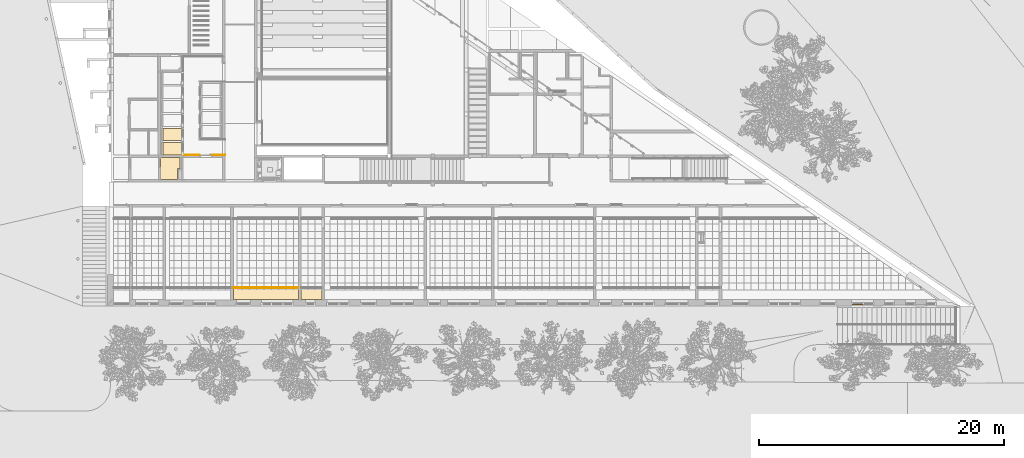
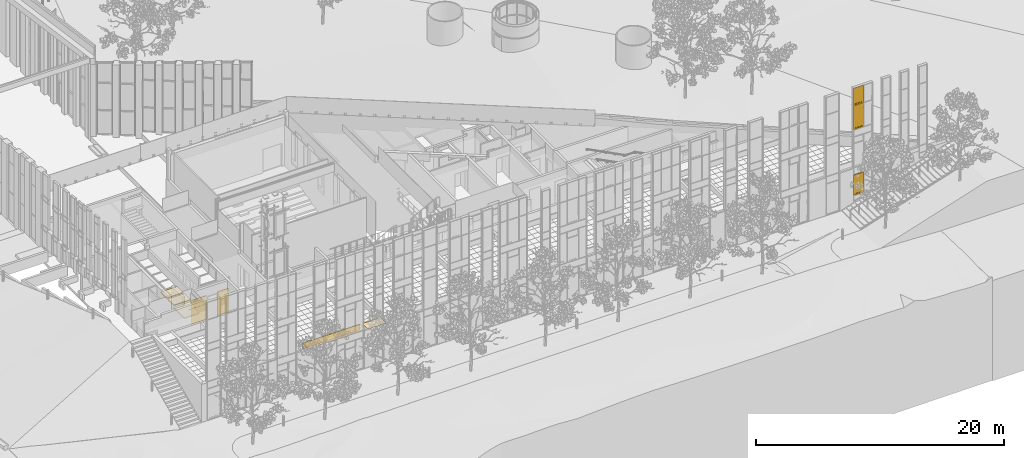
# One storey, part 167 of 246: 7 coverings, 3 windows, 1 opening, 1 element without a shape of its own.
"""IFC2X3 building model written with IfcOpenShell, lengths in millimetres."""

from ifc_helpers import new_model, entity, si_unit, converted_unit, derived_unit, money_unit, direction, frame, origin_with_axes, place, context, subcontext, project, spatial, open_shell, faceted_brep, surface_model, material, material_list, type_object, element, aggregate, save


model = new_model("IFC2X3")

# Units and contexts
model_context = context("Model", 3, precision=0.01, world=origin_with_axes(), true_north=direction((0.0, 1.0)))
body_context = subcontext(model_context, "Body", "Model", "MODEL_VIEW")
ifc_project = project(units=[si_unit("LENGTHUNIT", "METRE", prefix="MILLI"), si_unit("AREAUNIT", "SQUARE_METRE"), si_unit("VOLUMEUNIT", "CUBIC_METRE"), converted_unit("PLANEANGLEUNIT", "DEGREE", entity("IfcPlaneAngleMeasure", 0.0174532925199), si_unit("PLANEANGLEUNIT", "RADIAN"), dimensions=[0, 0, 0, 0, 0, 0, 0]), si_unit("SOLIDANGLEUNIT", "STERADIAN"), money_unit("EUR"), converted_unit("TIMEUNIT", "Year", entity("IfcTimeMeasure", 31556926.0), si_unit("TIMEUNIT", "SECOND"), dimensions=[0, 0, 1, 0, 0, 0, 0]), si_unit("MASSUNIT", "GRAM", prefix="KILO"), si_unit("THERMODYNAMICTEMPERATUREUNIT", "DEGREE_CELSIUS"), si_unit("LUMINOUSINTENSITYUNIT", "LUMEN"), si_unit("ENERGYUNIT", "JOULE", prefix="MEGA"), derived_unit("THERMALCONDUCTANCEUNIT", [(si_unit("POWERUNIT", "WATT"), 1), (si_unit("LENGTHUNIT", "METRE"), -1), (si_unit("THERMODYNAMICTEMPERATUREUNIT", "KELVIN"), -1)]), derived_unit("SPECIFICHEATCAPACITYUNIT", [(si_unit("ENERGYUNIT", "JOULE"), 1), (si_unit("MASSUNIT", "GRAM", prefix="KILO"), -1), (si_unit("THERMODYNAMICTEMPERATUREUNIT", "KELVIN"), -1)]), derived_unit("MASSDENSITYUNIT", [(si_unit("MASSUNIT", "GRAM", prefix="KILO"), 1), (si_unit("VOLUMEUNIT", "CUBIC_METRE"), -1)])], contexts=[model_context])

# Site, building, storey
site_placement = place(None, origin_with_axes())
site = spatial("IfcSite", under=ifc_project, at=site_placement, Name="L.Koidula tn 11b", CompositionType="ELEMENT")
building_placement = place(site_placement, origin_with_axes())
building = spatial("IfcBuilding", under=site, at=building_placement, Name="Rakvere Riigigümnaasium", CompositionType="ELEMENT")
storey_placement = place(building_placement, origin_with_axes())
storey = spatial("IfcBuildingStorey", under=building, at=storey_placement, Name="1.korrus 0,00", CompositionType="ELEMENT", Elevation=0.0)

# Curtain wall, windows
curtain_wall_type = type_object("IfcCurtainWallType", Name="Curtain Wall Type", PredefinedType="NOTDEFINED")
curtain_wall_placement = place(storey_placement, frame((96030.936158, 5111.45334637, 394.620798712), z_axis=(0.0, 0.0, 1.0), x_axis=(1.0, 0.0, 0.0)))
curtain_wall = element("IfcCurtainWall", 1, at=curtain_wall_placement, inside=storey, type_object=curtain_wall_type, Name="KLF-05-2C")
ifc_material_1 = material(Name="Alumiiniumprofiil (RAL 7021)")
ifc_material_2 = material(Name="Klaaspakett 3x ribikardinatega")
ifc_material_list_1 = material_list([ifc_material_1, ifc_material_2])
window_style_1 = type_object("IfcWindowStyle", Name="926 x 2351 x 54", ConstructionType="NOTDEFINED", OperationType="NOTDEFINED", ParameterTakesPrecedence=False, Sizeable=False)
window_1_placement = place(curtain_wall_placement, frame((159.531980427, 0.0, 8117.87919319), z_axis=(0.0, 0.0, 1.0), x_axis=(-1.0, 0.0, 0.0)))
window_1 = element("IfcWindow", 2, at=window_1_placement, type_object=window_style_1, material=ifc_material_list_1, Name="KLF-05-A-2", ObjectType="WINDOW", context=body_context, shape_type="SurfaceModel", body=[
    surface_model("IfcShellBasedSurfaceModel", [(440.468013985, 38.0, -1022.5000149), (381.468013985, 38.0, -963.500014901), (-400.531980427, 38.0, -963.500014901), (-459.531980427, 38.0, -1022.5000149)], [open_shell([[[0, 1, 2, 3]]])]),
    surface_model("IfcShellBasedSurfaceModel", [(-459.531980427, 38.0, -1022.5000149), (-400.531980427, 38.0, -963.500014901), (-400.531980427, 38.0, 1243.5000149), (-459.531980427, 38.0, 1302.5000149)], [open_shell([[[0, 1, 2, 3]]])]),
    surface_model("IfcShellBasedSurfaceModel", [(440.468013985, 38.0, 1302.5000149), (-459.531980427, 38.0, 1302.5000149), (-400.531980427, 38.0, 1243.5000149), (381.468013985, 38.0, 1243.5000149)], [open_shell([[[0, 1, 2, 3]]])]),
    surface_model("IfcShellBasedSurfaceModel", [(440.468013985, 38.0, -1022.5000149), (440.468013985, 38.0, 1302.5000149), (381.468013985, 38.0, 1243.5000149), (381.468013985, 38.0, -963.500014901)], [open_shell([[[0, 1, 2, 3]]])]),
    faceted_brep([(440.468013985, -51.0, -1022.5000149), (-459.531980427, -51.0, -1022.5000149), (-459.531980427, 38.0, -1022.5000149), (440.468013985, 38.0, -1022.5000149), (381.468013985, -51.0, -963.500014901), (-400.531980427, -51.0, -963.500014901), (-400.531980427, 38.0, -963.500014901), (381.468013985, 38.0, -963.500014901)], [[[0, 1, 2, 3]], [[0, 4, 5, 1]], [[1, 5, 6, 2]], [[3, 2, 6, 7]], [[4, 0, 3, 7]], [[5, 4, 7, 6]]]),
    faceted_brep([(-459.531980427, -51.0, -1022.5000149), (-459.531980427, -51.0, 1302.5000149), (-459.531980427, 38.0, 1302.5000149), (-459.531980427, 38.0, -1022.5000149), (-400.531980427, -51.0, -963.500014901), (-400.531980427, -51.0, 1243.5000149), (-400.531980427, 38.0, 1243.5000149), (-400.531980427, 38.0, -963.500014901)], [[[0, 1, 2, 3]], [[0, 4, 5, 1]], [[1, 5, 6, 2]], [[3, 2, 6, 7]], [[4, 0, 3, 7]], [[5, 4, 7, 6]]]),
    faceted_brep([(440.468013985, -51.0, 1302.5000149), (381.468013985, -51.0, 1243.5000149), (381.468013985, 38.0, 1243.5000149), (440.468013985, 38.0, 1302.5000149), (-459.531980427, -51.0, 1302.5000149), (-400.531980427, -51.0, 1243.5000149), (-400.531980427, 38.0, 1243.5000149), (-459.531980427, 38.0, 1302.5000149)], [[[0, 1, 2, 3]], [[0, 4, 5, 1]], [[1, 5, 6, 2]], [[3, 2, 6, 7]], [[4, 0, 3, 7]], [[5, 4, 7, 6]]]),
    faceted_brep([(440.468013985, -51.0, -1022.5000149), (381.468013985, -51.0, -963.500014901), (381.468013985, 38.0, -963.500014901), (440.468013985, 38.0, -1022.5000149), (440.468013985, -51.0, 1302.5000149), (381.468013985, -51.0, 1243.5000149), (381.468013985, 38.0, 1243.5000149), (440.468013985, 38.0, 1302.5000149)], [[[0, 1, 2, 3]], [[0, 4, 5, 1]], [[1, 5, 6, 2]], [[3, 2, 6, 7]], [[4, 0, 3, 7]], [[5, 4, 7, 6]]]),
    faceted_brep([(453.468035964, -27.0, -1035.50000149), (-472.531967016, -27.0, -1035.50000149), (-472.531967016, 27.0, -1035.50000149), (453.468035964, 27.0, -1035.50000149), (440.468013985, -27.0, -1022.5000149), (-459.531980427, -27.0, -1022.5000149), (-459.531980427, 27.0, -1022.5000149), (440.468013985, 27.0, -1022.5000149)], [[[0, 1, 2, 3]], [[0, 4, 5, 1]], [[1, 5, 6, 2]], [[3, 2, 6, 7]], [[4, 0, 3, 7]], [[5, 4, 7, 6]]]),
    faceted_brep([(-472.531967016, -27.0, -1035.50000149), (-472.531967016, -27.0, 1315.50000149), (-472.531967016, 27.0, 1315.50000149), (-472.531967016, 27.0, -1035.50000149), (-459.531980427, -27.0, -1022.5000149), (-459.531980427, -27.0, 1302.5000149), (-459.531980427, 27.0, 1302.5000149), (-459.531980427, 27.0, -1022.5000149)], [[[0, 1, 2, 3]], [[0, 4, 5, 1]], [[1, 5, 6, 2]], [[3, 2, 6, 7]], [[4, 0, 3, 7]], [[5, 4, 7, 6]]]),
    faceted_brep([(-472.531967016, -27.0, 1315.50000149), (453.468035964, -27.0, 1315.50000149), (453.468035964, 27.0, 1315.50000149), (-472.531967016, 27.0, 1315.50000149), (-459.531980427, -27.0, 1302.5000149), (440.468013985, -27.0, 1302.5000149), (440.468013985, 27.0, 1302.5000149), (-459.531980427, 27.0, 1302.5000149)], [[[0, 1, 2, 3]], [[0, 4, 5, 1]], [[1, 5, 6, 2]], [[3, 2, 6, 7]], [[4, 0, 3, 7]], [[5, 4, 7, 6]]]),
    faceted_brep([(453.468035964, -27.0, 1315.50000149), (453.468035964, -27.0, -1035.50000149), (453.468035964, 27.0, -1035.50000149), (453.468035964, 27.0, 1315.50000149), (440.468013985, -27.0, 1302.5000149), (440.468013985, -27.0, -1022.5000149), (440.468013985, 27.0, -1022.5000149), (440.468013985, 27.0, 1302.5000149)], [[[0, 1, 2, 3]], [[0, 4, 5, 1]], [[1, 5, 6, 2]], [[3, 2, 6, 7]], [[4, 0, 3, 7]], [[5, 4, 7, 6]]]),
    faceted_brep([(318.468013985, 38.0, -900.500014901), (318.468013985, -62.0, -900.500014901), (318.468013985, -62.0, 1180.5000149), (318.468013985, 38.0, 1180.5000149), (381.468013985, 38.0, -963.500014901), (381.468013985, -62.0, -963.500014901), (381.468013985, -62.0, 1243.5000149), (381.468013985, 38.0, 1243.5000149)], [[[0, 1, 2, 3]], [[4, 5, 1, 0]], [[1, 5, 6, 2]], [[3, 2, 6, 7]], [[0, 3, 7, 4]], [[7, 6, 5, 4]]]),
    faceted_brep([(-400.531980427, 38.0, -963.500014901), (-400.531980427, -62.0, -963.500014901), (-400.531980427, -62.0, 1243.5000149), (-400.531980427, 38.0, 1243.5000149), (-337.531980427, 38.0, -900.500014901), (-337.531980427, -62.0, -900.500014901), (-337.531980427, -62.0, 1180.5000149), (-337.531980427, 38.0, 1180.5000149)], [[[0, 1, 2, 3]], [[4, 5, 1, 0]], [[1, 5, 6, 2]], [[3, 2, 6, 7]], [[0, 3, 7, 4]], [[7, 6, 5, 4]]]),
    faceted_brep([(-400.531980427, 38.0, -963.500014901), (-400.531980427, -62.0, -963.500014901), (-337.531980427, -62.0, -900.500014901), (-337.531980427, 38.0, -900.500014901), (381.468013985, 38.0, -963.500014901), (381.468013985, -62.0, -963.500014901), (318.468013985, -62.0, -900.500014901), (318.468013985, 38.0, -900.500014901)], [[[0, 1, 2, 3]], [[4, 5, 1, 0]], [[1, 5, 6, 2]], [[3, 2, 6, 7]], [[0, 3, 7, 4]], [[7, 6, 5, 4]]]),
    faceted_brep([(381.468013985, 38.0, 1243.5000149), (381.468013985, -62.0, 1243.5000149), (318.468013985, -62.0, 1180.5000149), (318.468013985, 38.0, 1180.5000149), (-400.531980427, 38.0, 1243.5000149), (-400.531980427, -62.0, 1243.5000149), (-337.531980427, -62.0, 1180.5000149), (-337.531980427, 38.0, 1180.5000149)], [[[0, 1, 2, 3]], [[4, 5, 1, 0]], [[1, 5, 6, 2]], [[3, 2, 6, 7]], [[0, 3, 7, 4]], [[7, 6, 5, 4]]]),
    faceted_brep([(318.468013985, 27.0, -900.500014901), (318.468013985, 11.0, -900.500014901), (-337.531980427, 11.0, -900.500014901), (-337.531980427, 27.0, -900.500014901), (318.468013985, 27.0, 1180.5000149), (318.468013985, 11.0, 1180.5000149), (-337.531980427, 11.0, 1180.5000149), (-337.531980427, 27.0, 1180.5000149)], [[[0, 1, 2, 3]], [[4, 5, 1, 0]], [[1, 5, 6, 2]], [[3, 2, 6, 7]], [[0, 3, 7, 4]], [[7, 6, 5, 4]]]),
])
window_style_2 = type_object("IfcWindowStyle", Name="926 x 1701 x 54", ConstructionType="NOTDEFINED", OperationType="NOTDEFINED", ParameterTakesPrecedence=False, Sizeable=False)
window_2_placement = place(curtain_wall_placement, frame((156.563960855, 0.0, 10320.1896012), z_axis=(0.0, 0.0, 1.0), x_axis=(-1.0, 0.0, 0.0)))
window_2 = element("IfcWindow", 3, at=window_2_placement, type_object=window_style_2, material=ifc_material_list_1, Name="KLF-05-A-4", ObjectType="WINDOW", context=body_context, shape_type="SurfaceModel", body=[
    surface_model("IfcShellBasedSurfaceModel", [(437.499995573, 38.0, -849.810405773), (378.499995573, 38.0, -790.810405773), (-403.500005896, 38.0, -790.810405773), (-462.500005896, 38.0, -849.810405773)], [open_shell([[[0, 1, 2, 3]]])]),
    surface_model("IfcShellBasedSurfaceModel", [(-462.500005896, 38.0, -849.810405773), (-403.500005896, 38.0, -790.810405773), (-403.500005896, 38.0, 765.81040356), (-462.500005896, 38.0, 824.81040356)], [open_shell([[[0, 1, 2, 3]]])]),
    surface_model("IfcShellBasedSurfaceModel", [(437.499995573, 38.0, 824.81040356), (-462.500005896, 38.0, 824.81040356), (-403.500005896, 38.0, 765.81040356), (378.499995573, 38.0, 765.81040356)], [open_shell([[[0, 1, 2, 3]]])]),
    surface_model("IfcShellBasedSurfaceModel", [(437.499995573, 38.0, -849.810405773), (437.499995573, 38.0, 824.81040356), (378.499995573, 38.0, 765.81040356), (378.499995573, 38.0, -790.810405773)], [open_shell([[[0, 1, 2, 3]]])]),
    faceted_brep([(437.499995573, -51.0, -849.810405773), (-462.500005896, -51.0, -849.810405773), (-462.500005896, 38.0, -849.810405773), (437.499995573, 38.0, -849.810405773), (378.499995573, -51.0, -790.810405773), (-403.500005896, -51.0, -790.810405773), (-403.500005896, 38.0, -790.810405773), (378.499995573, 38.0, -790.810405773)], [[[0, 1, 2, 3]], [[0, 4, 5, 1]], [[1, 5, 6, 2]], [[3, 2, 6, 7]], [[4, 0, 3, 7]], [[5, 4, 7, 6]]]),
    faceted_brep([(-462.500005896, -51.0, -849.810405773), (-462.500005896, -51.0, 824.81040356), (-462.500005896, 38.0, 824.81040356), (-462.500005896, 38.0, -849.810405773), (-403.500005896, -51.0, -790.810405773), (-403.500005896, -51.0, 765.81040356), (-403.500005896, 38.0, 765.81040356), (-403.500005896, 38.0, -790.810405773)], [[[0, 1, 2, 3]], [[0, 4, 5, 1]], [[1, 5, 6, 2]], [[3, 2, 6, 7]], [[4, 0, 3, 7]], [[5, 4, 7, 6]]]),
    faceted_brep([(437.499995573, -51.0, 824.81040356), (378.499995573, -51.0, 765.81040356), (378.499995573, 38.0, 765.81040356), (437.499995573, 38.0, 824.81040356), (-462.500005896, -51.0, 824.81040356), (-403.500005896, -51.0, 765.81040356), (-403.500005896, 38.0, 765.81040356), (-462.500005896, 38.0, 824.81040356)], [[[0, 1, 2, 3]], [[0, 4, 5, 1]], [[1, 5, 6, 2]], [[3, 2, 6, 7]], [[4, 0, 3, 7]], [[5, 4, 7, 6]]]),
    faceted_brep([(437.499995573, -51.0, -849.810405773), (378.499995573, -51.0, -790.810405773), (378.499995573, 38.0, -790.810405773), (437.499995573, 38.0, -849.810405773), (437.499995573, -51.0, 824.81040356), (378.499995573, -51.0, 765.81040356), (378.499995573, 38.0, 765.81040356), (437.499995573, 38.0, 824.81040356)], [[[0, 1, 2, 3]], [[0, 4, 5, 1]], [[1, 5, 6, 2]], [[3, 2, 6, 7]], [[4, 0, 3, 7]], [[5, 4, 7, 6]]]),
    faceted_brep([(450.500007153, -27.0, -862.810417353), (-475.499991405, -27.0, -862.810417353), (-475.499991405, 27.0, -862.810417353), (450.500007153, 27.0, -862.810417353), (437.499995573, -27.0, -849.810405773), (-462.500005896, -27.0, -849.810405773), (-462.500005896, 27.0, -849.810405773), (437.499995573, 27.0, -849.810405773)], [[[0, 1, 2, 3]], [[0, 4, 5, 1]], [[1, 5, 6, 2]], [[3, 2, 6, 7]], [[4, 0, 3, 7]], [[5, 4, 7, 6]]]),
    faceted_brep([(-475.499991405, -27.0, -862.810417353), (-475.499991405, -27.0, 837.810415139), (-475.499991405, 27.0, 837.810415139), (-475.499991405, 27.0, -862.810417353), (-462.500005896, -27.0, -849.810405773), (-462.500005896, -27.0, 824.81040356), (-462.500005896, 27.0, 824.81040356), (-462.500005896, 27.0, -849.810405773)], [[[0, 1, 2, 3]], [[0, 4, 5, 1]], [[1, 5, 6, 2]], [[3, 2, 6, 7]], [[4, 0, 3, 7]], [[5, 4, 7, 6]]]),
    faceted_brep([(-475.499991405, -27.0, 837.810415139), (450.500007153, -27.0, 837.810415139), (450.500007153, 27.0, 837.810415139), (-475.499991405, 27.0, 837.810415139), (-462.500005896, -27.0, 824.81040356), (437.499995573, -27.0, 824.81040356), (437.499995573, 27.0, 824.81040356), (-462.500005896, 27.0, 824.81040356)], [[[0, 1, 2, 3]], [[0, 4, 5, 1]], [[1, 5, 6, 2]], [[3, 2, 6, 7]], [[4, 0, 3, 7]], [[5, 4, 7, 6]]]),
    faceted_brep([(450.500007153, -27.0, 837.810415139), (450.500007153, -27.0, -862.810417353), (450.500007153, 27.0, -862.810417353), (450.500007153, 27.0, 837.810415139), (437.499995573, -27.0, 824.81040356), (437.499995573, -27.0, -849.810405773), (437.499995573, 27.0, -849.810405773), (437.499995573, 27.0, 824.81040356)], [[[0, 1, 2, 3]], [[0, 4, 5, 1]], [[1, 5, 6, 2]], [[3, 2, 6, 7]], [[4, 0, 3, 7]], [[5, 4, 7, 6]]]),
    faceted_brep([(315.499995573, 38.0, -727.810405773), (315.499995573, -62.0, -727.810405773), (315.499995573, -62.0, 702.81040356), (315.499995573, 38.0, 702.81040356), (378.499995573, 38.0, -790.810405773), (378.499995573, -62.0, -790.810405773), (378.499995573, -62.0, 765.81040356), (378.499995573, 38.0, 765.81040356)], [[[0, 1, 2, 3]], [[4, 5, 1, 0]], [[1, 5, 6, 2]], [[3, 2, 6, 7]], [[0, 3, 7, 4]], [[7, 6, 5, 4]]]),
    faceted_brep([(-403.500005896, 38.0, -790.810405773), (-403.500005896, -62.0, -790.810405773), (-403.500005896, -62.0, 765.81040356), (-403.500005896, 38.0, 765.81040356), (-340.500005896, 38.0, -727.810405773), (-340.500005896, -62.0, -727.810405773), (-340.500005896, -62.0, 702.81040356), (-340.500005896, 38.0, 702.81040356)], [[[0, 1, 2, 3]], [[4, 5, 1, 0]], [[1, 5, 6, 2]], [[3, 2, 6, 7]], [[0, 3, 7, 4]], [[7, 6, 5, 4]]]),
    faceted_brep([(-403.500005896, 38.0, -790.810405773), (-403.500005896, -62.0, -790.810405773), (-340.500005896, -62.0, -727.810405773), (-340.500005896, 38.0, -727.810405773), (378.499995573, 38.0, -790.810405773), (378.499995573, -62.0, -790.810405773), (315.499995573, -62.0, -727.810405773), (315.499995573, 38.0, -727.810405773)], [[[0, 1, 2, 3]], [[4, 5, 1, 0]], [[1, 5, 6, 2]], [[3, 2, 6, 7]], [[0, 3, 7, 4]], [[7, 6, 5, 4]]]),
    faceted_brep([(378.499995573, 38.0, 765.81040356), (378.499995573, -62.0, 765.81040356), (315.499995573, -62.0, 702.81040356), (315.499995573, 38.0, 702.81040356), (-403.500005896, 38.0, 765.81040356), (-403.500005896, -62.0, 765.81040356), (-340.500005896, -62.0, 702.81040356), (-340.500005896, 38.0, 702.81040356)], [[[0, 1, 2, 3]], [[4, 5, 1, 0]], [[1, 5, 6, 2]], [[3, 2, 6, 7]], [[0, 3, 7, 4]], [[7, 6, 5, 4]]]),
    faceted_brep([(315.499995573, 27.0, -727.810405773), (315.499995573, 11.0, -727.810405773), (-340.500005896, 11.0, -727.810405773), (-340.500005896, 27.0, -727.810405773), (315.499995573, 27.0, 702.81040356), (315.499995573, 11.0, 702.81040356), (-340.500005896, 11.0, 702.81040356), (-340.500005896, 27.0, 702.81040356)], [[[0, 1, 2, 3]], [[4, 5, 1, 0]], [[1, 5, 6, 2]], [[3, 2, 6, 7]], [[0, 3, 7, 4]], [[7, 6, 5, 4]]]),
])
window_style_3 = type_object("IfcWindowStyle", Name="926 x 2016 x 65", ConstructionType="NOTDEFINED", OperationType="NOTDEFINED", ParameterTakesPrecedence=False, Sizeable=False)
window_3_placement = place(curtain_wall_placement, frame((0.0, 0.0, 1625.37919319), z_axis=(0.0, 0.0, 1.0), x_axis=(-1.0, 0.0, 0.0)))
window_3 = element("IfcWindow", 4, at=window_3_placement, type_object=window_style_3, material=ifc_material_list_1, Name="KLF-05-A-5", ObjectType="WINDOW", context=body_context, shape_type="SurfaceModel", body=[
    surface_model("IfcShellBasedSurfaceModel", [(280.93602484, 43.5, -994.999992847), (221.93602484, 43.5, -935.999992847), (-560.063959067, 43.5, -935.999992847), (-619.063959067, 43.5, -994.999992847)], [open_shell([[[0, 1, 2, 3]]])]),
    surface_model("IfcShellBasedSurfaceModel", [(-619.063959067, 43.5, -994.999992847), (-560.063959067, 43.5, -935.999992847), (-560.063959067, 43.5, 935.999992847), (-619.063959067, 43.5, 994.999992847)], [open_shell([[[0, 1, 2, 3]]])]),
    surface_model("IfcShellBasedSurfaceModel", [(280.93602484, 43.5, 994.999992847), (-619.063959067, 43.5, 994.999992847), (-560.063959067, 43.5, 935.999992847), (221.93602484, 43.5, 935.999992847)], [open_shell([[[0, 1, 2, 3]]])]),
    surface_model("IfcShellBasedSurfaceModel", [(280.93602484, 43.5, -994.999992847), (280.93602484, 43.5, 994.999992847), (221.93602484, 43.5, 935.999992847), (221.93602484, 43.5, -935.999992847)], [open_shell([[[0, 1, 2, 3]]])]),
    faceted_brep([(280.93602484, -45.5, -994.999992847), (-619.063959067, -45.5, -994.999992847), (-619.063959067, 43.5, -994.999992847), (280.93602484, 43.5, -994.999992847), (221.93602484, -45.5, -935.999992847), (-560.063959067, -45.5, -935.999992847), (-560.063959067, 43.5, -935.999992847), (221.93602484, 43.5, -935.999992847)], [[[0, 1, 2, 3]], [[0, 4, 5, 1]], [[1, 5, 6, 2]], [[3, 2, 6, 7]], [[4, 0, 3, 7]], [[5, 4, 7, 6]]]),
    faceted_brep([(-619.063959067, -45.5, -994.999992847), (-619.063959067, -45.5, 994.999992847), (-619.063959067, 43.5, 994.999992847), (-619.063959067, 43.5, -994.999992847), (-560.063959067, -45.5, -935.999992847), (-560.063959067, -45.5, 935.999992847), (-560.063959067, 43.5, 935.999992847), (-560.063959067, 43.5, -935.999992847)], [[[0, 1, 2, 3]], [[0, 4, 5, 1]], [[1, 5, 6, 2]], [[3, 2, 6, 7]], [[4, 0, 3, 7]], [[5, 4, 7, 6]]]),
    faceted_brep([(280.93602484, -45.5, 994.999992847), (221.93602484, -45.5, 935.999992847), (221.93602484, 43.5, 935.999992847), (280.93602484, 43.5, 994.999992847), (-619.063959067, -45.5, 994.999992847), (-560.063959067, -45.5, 935.999992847), (-560.063959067, 43.5, 935.999992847), (-619.063959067, 43.5, 994.999992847)], [[[0, 1, 2, 3]], [[0, 4, 5, 1]], [[1, 5, 6, 2]], [[3, 2, 6, 7]], [[4, 0, 3, 7]], [[5, 4, 7, 6]]]),
    faceted_brep([(280.93602484, -45.5, -994.999992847), (221.93602484, -45.5, -935.999992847), (221.93602484, 43.5, -935.999992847), (280.93602484, 43.5, -994.999992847), (280.93602484, -45.5, 994.999992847), (221.93602484, -45.5, 935.999992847), (221.93602484, 43.5, 935.999992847), (280.93602484, 43.5, 994.999992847)], [[[0, 1, 2, 3]], [[0, 4, 5, 1]], [[1, 5, 6, 2]], [[3, 2, 6, 7]], [[4, 0, 3, 7]], [[5, 4, 7, 6]]]),
    faceted_brep([(293.936051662, -32.5, -1007.99998927), (-632.06395549, -32.5, -1007.99998927), (-632.06395549, 32.5, -1007.99998927), (293.936051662, 32.5, -1007.99998927), (280.93602484, -32.5, -994.999992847), (-619.063959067, -32.5, -994.999992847), (-619.063959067, 32.5, -994.999992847), (280.93602484, 32.5, -994.999992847)], [[[0, 1, 2, 3]], [[0, 4, 5, 1]], [[1, 5, 6, 2]], [[3, 2, 6, 7]], [[4, 0, 3, 7]], [[5, 4, 7, 6]]]),
    faceted_brep([(-632.06395549, -32.5, -1007.99998927), (-632.06395549, -32.5, 1007.99998927), (-632.06395549, 32.5, 1007.99998927), (-632.06395549, 32.5, -1007.99998927), (-619.063959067, -32.5, -994.999992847), (-619.063959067, -32.5, 994.999992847), (-619.063959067, 32.5, 994.999992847), (-619.063959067, 32.5, -994.999992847)], [[[0, 1, 2, 3]], [[0, 4, 5, 1]], [[1, 5, 6, 2]], [[3, 2, 6, 7]], [[4, 0, 3, 7]], [[5, 4, 7, 6]]]),
    faceted_brep([(-632.06395549, -32.5, 1007.99998927), (293.936051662, -32.5, 1007.99998927), (293.936051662, 32.5, 1007.99998927), (-632.06395549, 32.5, 1007.99998927), (-619.063959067, -32.5, 994.999992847), (280.93602484, -32.5, 994.999992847), (280.93602484, 32.5, 994.999992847), (-619.063959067, 32.5, 994.999992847)], [[[0, 1, 2, 3]], [[0, 4, 5, 1]], [[1, 5, 6, 2]], [[3, 2, 6, 7]], [[4, 0, 3, 7]], [[5, 4, 7, 6]]]),
    faceted_brep([(293.936051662, -32.5, 1007.99998927), (293.936051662, -32.5, -1007.99998927), (293.936051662, 32.5, -1007.99998927), (293.936051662, 32.5, 1007.99998927), (280.93602484, -32.5, 994.999992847), (280.93602484, -32.5, -994.999992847), (280.93602484, 32.5, -994.999992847), (280.93602484, 32.5, 994.999992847)], [[[0, 1, 2, 3]], [[0, 4, 5, 1]], [[1, 5, 6, 2]], [[3, 2, 6, 7]], [[4, 0, 3, 7]], [[5, 4, 7, 6]]]),
    faceted_brep([(158.93602484, 43.5, -872.999992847), (158.93602484, -56.5, -872.999992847), (158.93602484, -56.5, 872.999992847), (158.93602484, 43.5, 872.999992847), (221.93602484, 43.5, -935.999992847), (221.93602484, -56.5, -935.999992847), (221.93602484, -56.5, 935.999992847), (221.93602484, 43.5, 935.999992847)], [[[0, 1, 2, 3]], [[4, 5, 1, 0]], [[1, 5, 6, 2]], [[3, 2, 6, 7]], [[0, 3, 7, 4]], [[7, 6, 5, 4]]]),
    faceted_brep([(-560.063959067, 43.5, -935.999992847), (-560.063959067, -56.5, -935.999992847), (-560.063959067, -56.5, 935.999992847), (-560.063959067, 43.5, 935.999992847), (-497.063959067, 43.5, -872.999992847), (-497.063959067, -56.5, -872.999992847), (-497.063959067, -56.5, 872.999992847), (-497.063959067, 43.5, 872.999992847)], [[[0, 1, 2, 3]], [[4, 5, 1, 0]], [[1, 5, 6, 2]], [[3, 2, 6, 7]], [[0, 3, 7, 4]], [[7, 6, 5, 4]]]),
    faceted_brep([(-560.063959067, 43.5, -935.999992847), (-560.063959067, -56.5, -935.999992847), (-497.063959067, -56.5, -872.999992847), (-497.063959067, 43.5, -872.999992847), (221.93602484, 43.5, -935.999992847), (221.93602484, -56.5, -935.999992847), (158.93602484, -56.5, -872.999992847), (158.93602484, 43.5, -872.999992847)], [[[0, 1, 2, 3]], [[4, 5, 1, 0]], [[1, 5, 6, 2]], [[3, 2, 6, 7]], [[0, 3, 7, 4]], [[7, 6, 5, 4]]]),
    faceted_brep([(221.93602484, 43.5, 935.999992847), (221.93602484, -56.5, 935.999992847), (158.93602484, -56.5, 872.999992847), (158.93602484, 43.5, 872.999992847), (-560.063959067, 43.5, 935.999992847), (-560.063959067, -56.5, 935.999992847), (-497.063959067, -56.5, 872.999992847), (-497.063959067, 43.5, 872.999992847)], [[[0, 1, 2, 3]], [[4, 5, 1, 0]], [[1, 5, 6, 2]], [[3, 2, 6, 7]], [[0, 3, 7, 4]], [[7, 6, 5, 4]]]),
    faceted_brep([(158.93602484, 32.5, -872.999992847), (158.93602484, -32.5, -872.999992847), (-497.063959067, -32.5, -872.999992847), (-497.063959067, 32.5, -872.999992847), (158.93602484, 32.5, 872.999992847), (158.93602484, -32.5, 872.999992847), (-497.063959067, -32.5, 872.999992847), (-497.063959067, 32.5, 872.999992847)], [[[0, 1, 2, 3]], [[4, 5, 1, 0]], [[1, 5, 6, 2]], [[3, 2, 6, 7]], [[0, 3, 7, 4]], [[7, 6, 5, 4]]]),
])
aggregate(curtain_wall, [window_3, window_1, window_2])

# Coverings
ifc_material_3 = material(Name="mineraalvill+karkass")
ifc_material_4 = material(Name="SKR-02_Kipsplaat")
ifc_material_list_2 = material_list([ifc_material_3, ifc_material_4])
covering_type_1 = type_object("IfcCoveringType", Name="SA-LV-kips 79", PredefinedType="CEILING")
covering_1_placement = place(storey_placement, frame((41077.8267999, 19475.274704, 2400.0), z_axis=(0.0, 0.0, 1.0), x_axis=(1.0, 0.0, 0.0)))
element("IfcCovering", 5, at=covering_1_placement, inside=storey, type_object=covering_type_1, material=ifc_material_list_2, Name="L-04", PredefinedType="CEILING", context=body_context, shape_type="Brep", body=[
    faceted_brep([(-1557.82676402, 0.0, 12.5), (-1557.82676402, 0.0, 78.5), (0.0, 0.0, 78.5), (0.0, 0.0, 12.5), (-1557.82676402, -999.803351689, 12.5), (-1557.82676402, -999.803351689, 78.5), (0.0, -999.803351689, 78.5), (0.0, -999.803351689, 12.5)], [[[0, 1, 2, 3]], [[4, 5, 1, 0]], [[2, 1, 5, 6]], [[3, 2, 6, 7]], [[3, 7, 4, 0]], [[7, 6, 5, 4]]]),
    faceted_brep([(0.0, 0.0, 0.0), (-1557.82676402, 0.0, 0.0), (-1557.82676402, 0.0, 12.5), (0.0, 0.0, 12.5), (0.0, -999.803351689, 0.0), (-1557.82676402, -999.803351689, 0.0), (-1557.82676402, -999.803351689, 12.5), (0.0, -999.803351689, 12.5)], [[[0, 1, 2, 3]], [[0, 4, 5, 1]], [[1, 5, 6, 2]], [[3, 2, 6, 7]], [[4, 0, 3, 7]], [[5, 4, 7, 6]]]),
])
covering_2_placement = place(storey_placement, frame((40923.5073165, 17095.4555123, 2400.0), z_axis=(0.0, 0.0, 1.0), x_axis=(1.0, 0.0, 0.0)))
element("IfcCovering", 6, at=covering_2_placement, inside=storey, type_object=covering_type_1, material=ifc_material_list_2, Name="L-05", PredefinedType="CEILING", context=body_context, shape_type="Brep", body=[
    faceted_brep([(-1588.50002852, 0.0, 12.5), (-1588.50002852, 0.0, 78.5), (0.0, 0.0, 78.5), (0.0, 0.0, 12.5), (-1588.50002852, -1779.97698206, 12.5), (-1588.50002852, -1779.97698206, 78.5), (-203.506334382, -1779.97698206, 78.5), (-203.506334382, -885.0, 78.5), (0.0, -885.0, 78.5), (0.0, -885.0, 12.5), (-203.506334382, -885.0, 12.5), (-203.506334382, -1779.97698206, 12.5)], [[[0, 1, 2, 3]], [[4, 5, 1, 0]], [[2, 1, 5, 6, 7, 8]], [[3, 2, 8, 9]], [[3, 9, 10, 11, 4, 0]], [[11, 6, 5, 4]], [[10, 7, 6, 11]], [[9, 8, 7, 10]]]),
    faceted_brep([(0.0, 0.0, 0.0), (-1588.50002852, 0.0, 0.0), (-1588.50002852, 0.0, 12.5), (0.0, 0.0, 12.5), (0.0, -885.0, 0.0), (-203.506334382, -885.0, 0.0), (-203.506334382, -1779.97698206, 0.0), (-1588.50002852, -1779.97698206, 0.0), (-1588.50002852, -1779.97698206, 12.5), (-203.506334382, -1779.97698206, 12.5), (-203.506334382, -885.0, 12.5), (0.0, -885.0, 12.5)], [[[0, 1, 2, 3]], [[0, 4, 5, 6, 7, 1]], [[1, 7, 8, 2]], [[3, 2, 8, 9, 10, 11]], [[4, 0, 3, 11]], [[5, 4, 11, 10]], [[6, 5, 10, 9]], [[7, 6, 9, 8]]]),
])
covering_3_placement = place(storey_placement, frame((45269.9999972, 6435.45437174, 2762.5), z_axis=(0.0, 0.0, 1.0), x_axis=(1.0, 0.0, 0.0)))
element("IfcCovering", 7, at=covering_3_placement, inside=storey, type_object=covering_type_1, material=ifc_material_list_2, Name="L-04 vert", PredefinedType="CEILING", context=body_context, shape_type="Brep", body=[
    faceted_brep([(5299.98308002, 12.5, 562.5), (5299.98308002, 78.5, 562.5), (0.0, 78.5, 562.5), (0.0, 12.5, 562.5), (5299.98308002, 12.5, 0.0), (5299.98308002, 78.5, 0.0), (0.0, 78.5, 0.0), (0.0, 12.5, 0.0)], [[[0, 1, 2, 3]], [[0, 4, 5, 1]], [[1, 5, 6, 2]], [[3, 2, 6, 7]], [[4, 0, 3, 7]], [[5, 4, 7, 6]]]),
    faceted_brep([(5299.98308002, 0.0, 562.5), (5299.98308002, 12.5, 562.5), (0.0, 12.5, 562.5), (0.0, 0.0, 562.5), (5299.98308002, 0.0, 0.0), (5299.98308002, 12.5, 0.0), (0.0, 12.5, 0.0), (0.0, 0.0, 0.0)], [[[0, 1, 2, 3]], [[0, 4, 5, 1]], [[1, 5, 6, 2]], [[3, 2, 6, 7]], [[4, 0, 3, 7]], [[5, 4, 7, 6]]]),
])
covering_4_placement = place(storey_placement, frame((39520.0000359, 18325.3756767, 2400.0), z_axis=(0.0, 0.0, 1.0), x_axis=(1.0, 0.0, 0.0)))
element("IfcCovering", 8, at=covering_4_placement, inside=storey, type_object=covering_type_1, material=ifc_material_list_2, Name="L-04", PredefinedType="CEILING", context=body_context, shape_type="Brep", body=[
    faceted_brep([(0.0, -999.920164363, 12.5), (0.0, -999.920164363, 78.5), (0.0, 0.0, 78.5), (0.0, 0.0, 12.5), (1557.82676402, -999.920164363, 12.5), (1557.82676402, -999.920164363, 78.5), (1557.82676402, 0.0, 78.5), (1557.82676402, 0.0, 12.5)], [[[0, 1, 2, 3]], [[4, 5, 1, 0]], [[2, 1, 5, 6]], [[3, 2, 6, 7]], [[3, 7, 4, 0]], [[7, 6, 5, 4]]]),
    faceted_brep([(0.0, 0.0, 0.0), (0.0, -999.920164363, 0.0), (0.0, -999.920164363, 12.5), (0.0, 0.0, 12.5), (1557.82676402, 0.0, 0.0), (1557.82676402, -999.920164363, 0.0), (1557.82676402, -999.920164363, 12.5), (1557.82676402, 0.0, 12.5)], [[[0, 1, 2, 3]], [[0, 4, 5, 1]], [[1, 5, 6, 2]], [[3, 2, 6, 7]], [[4, 0, 3, 7]], [[5, 4, 7, 6]]]),
])

# Covering, opening
ifc_material_5 = material(Name="MDF")
covering_type_2 = type_object("IfcCoveringType", Name="MDF 20", PredefinedType="CLADDING")
covering_5_placement = place(storey_placement, frame((41170.0073165, 17310.4555123, 0.0), z_axis=(0.0, 0.0, 1.0), x_axis=(1.0, 0.0, 0.0)))
covering_5 = element("IfcCovering", 9, at=covering_5_placement, inside=storey, type_object=covering_type_2, material=ifc_material_5, Name="S-07", PredefinedType="CLADDING", context=body_context, shape_type="Brep", body=[
    faceted_brep([(1359.99264606, 0.0, 2400.0), (1359.99264606, 20.0, 2400.0), (0.0, 20.0, 2400.0), (0.0, 0.0, 2400.0), (1359.99264606, 20.0, 0.0), (1359.99264606, 0.0, 0.0), (0.0, 20.0, 0.0), (0.0, 0.0, 0.0)], [[[0, 1, 2, 3]], [[4, 1, 0, 5]], [[1, 4, 6, 2]], [[3, 2, 6, 7]], [[5, 0, 3, 7]], [[4, 5, 7, 6]]]),
    faceted_brep([(2359.99264606, 20.0, 0.0), (2359.99264606, 20.0, 2400.0), (3439.99267458, 20.0, 2400.0), (3439.99267458, 20.0, 0.0), (2359.99264606, 0.0, 2400.0), (2359.99264606, 0.0, 0.0), (3439.99267458, 0.0, 2400.0), (3439.99267458, 0.0, 0.0)], [[[0, 1, 2, 3]], [[4, 1, 0, 5]], [[1, 4, 6, 2]], [[6, 7, 3, 2]], [[5, 0, 3, 7]], [[4, 5, 7, 6]]]),
])
opening_placement = place(covering_5_placement, frame((1859.99264606, 0.0, 0.0), z_axis=(0.0, 0.0, 1.0), x_axis=(1.0, 0.0, 0.0)))
element("IfcOpeningElement", 10, at=opening_placement, cuts=covering_5, Name="ava", context=body_context, shape_type="Brep", body=[
    faceted_brep([(-500.0, -20.0, 0.0), (-500.0, -20.0, 2400.0), (-500.0, 40.0, 2400.0), (-500.0, 40.0, 0.0), (500.0, -20.0, 0.0), (500.0, -20.0, 2400.0), (500.0, 40.0, 2400.0), (500.0, 40.0, 0.0)], [[[0, 1, 2, 3]], [[0, 4, 5, 1]], [[1, 5, 6, 2]], [[3, 2, 6, 7]], [[4, 0, 3, 7]], [[5, 4, 7, 6]]]),
])

# Coverings
ifc_material_6 = material(Name="Salto-siseviimistlus-ripplagi")
covering_type_3 = type_object("IfcCoveringType", Name="Salto-siseviimistlus-ripplagi 1", PredefinedType="CLADDING")
covering_6_placement = place(storey_placement, frame((45269.9999972, 5510.45553887, 3325.0), z_axis=(0.0, 0.0, 1.0), x_axis=(1.0, 0.0, 0.0)))
element("IfcCovering", 11, at=covering_6_placement, inside=storey, type_object=covering_type_3, material=ifc_material_6, Name="L-09", PredefinedType="CLADDING", context=body_context, shape_type="Brep", body=[
    faceted_brep([(0.0, 0.0, 0.0), (0.0, 0.0, -1.0), (5299.98308002, 0.0, -1.0), (5299.98308002, 0.0, 0.0), (0.0, 924.998832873, 0.0), (0.0, 924.998832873, -1.0), (5299.98308002, 924.998832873, -1.0), (5299.98308002, 924.998832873, 0.0)], [[[0, 1, 2, 3]], [[4, 5, 1, 0]], [[2, 1, 5, 6]], [[3, 2, 6, 7]], [[4, 0, 3, 7]], [[7, 6, 5, 4]]]),
])
covering_7_placement = place(storey_placement, frame((50789.9830772, 5510.45553887, 3325.0), z_axis=(0.0, 0.0, 1.0), x_axis=(1.0, 0.0, 0.0)))
element("IfcCovering", 12, at=covering_7_placement, inside=storey, type_object=covering_type_3, material=ifc_material_6, Name="L-09", PredefinedType="CLADDING", context=body_context, shape_type="Brep", body=[
    faceted_brep([(0.0, 0.0, 0.0), (0.0, 0.0, -1.0), (1699.99356132, 0.0, -1.0), (1699.99356132, 0.0, 0.0), (0.0, 924.998832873, 0.0), (0.0, 924.998832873, -1.0), (1699.99356132, 924.998832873, -1.0), (1699.99356132, 924.998832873, 0.0)], [[[0, 1, 2, 3]], [[4, 5, 1, 0]], [[2, 1, 5, 6]], [[3, 2, 6, 7]], [[4, 0, 3, 7]], [[7, 6, 5, 4]]]),
])

save(model, "model.ifc")
